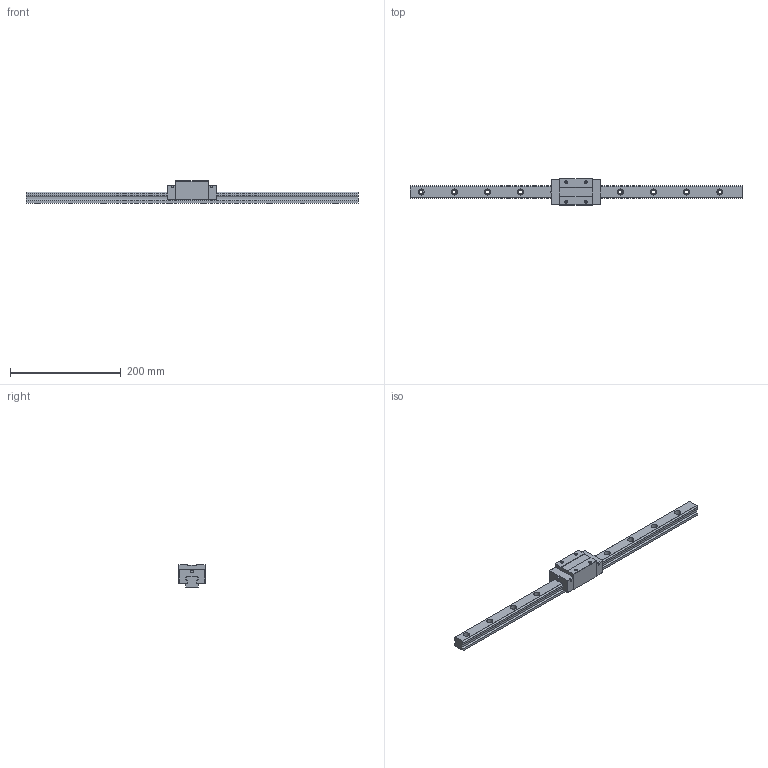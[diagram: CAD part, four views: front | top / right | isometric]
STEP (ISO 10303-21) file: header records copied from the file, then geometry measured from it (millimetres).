
FILE_DESCRIPTION (( 'STEP AP203' ), '1' );
FILE_NAME ('TRH25VN-ZN.STEP', '2024-05-20T06:44:43', ( '' ), ( '' ), 'SwSTEP 2.0', 'SolidWorks 2022', '' );
FILE_SCHEMA (( 'CONFIG_CONTROL_DESIGN' ));
Length unit declared in the file: millimetre
Products named in the file (1): TRH25VN-ZN
Bounding box: 600 x 48 x 40 mm (x, y, z)
Volume: 341635.9 mm3; surface area: 79239.8 mm2
Topology: 2 solids, 2 shells, 200 faces, 520 edges, 336 vertices
Faces by surface type: cylinder 96, plane 88, cone 16
Entity records: 6223 total; most frequent: DIRECTION 1114, CARTESIAN_POINT 1049, ORIENTED_EDGE 1024, EDGE_CURVE 512, AXIS2_PLACEMENT_3D 401, VERTEX_POINT 336, VECTOR 312, LINE 312
